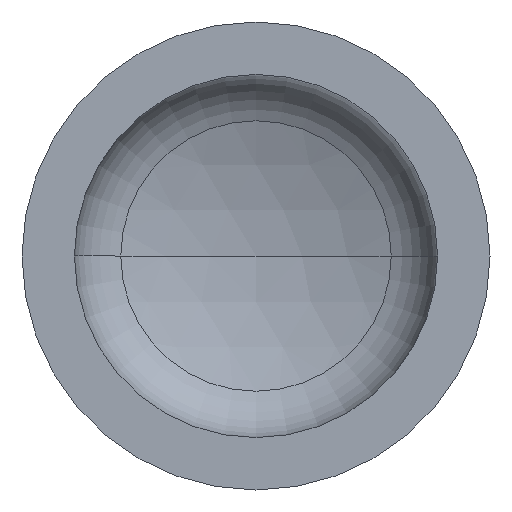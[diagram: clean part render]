
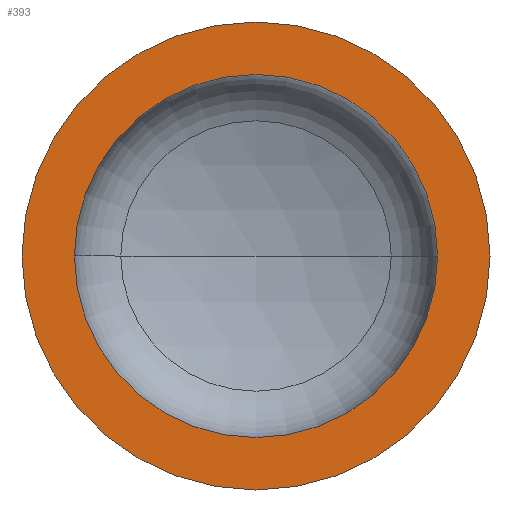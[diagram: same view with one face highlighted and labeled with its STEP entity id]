
A CAD part, front view. The second image highlights one B-rep face of the part: STEP entity #393.
In plain terms, the highlighted planar face has unit normal (0, -1, 0).
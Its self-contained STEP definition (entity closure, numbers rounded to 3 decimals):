
#1 = CARTESIAN_POINT ( 'NONE',  ( 388., 0., 0. ) ) ;
#3 = CARTESIAN_POINT ( 'NONE',  ( 0., 0., 0. ) ) ;
#9 = EDGE_LOOP ( 'NONE', ( #17, #78 ) ) ;
#17 = ORIENTED_EDGE ( 'NONE', *, *, #121, .T. ) ;
#45 = AXIS2_PLACEMENT_3D ( 'NONE', #134, #349, #193 ) ;
#47 = EDGE_LOOP ( 'NONE', ( #66, #53 ) ) ;
#53 = ORIENTED_EDGE ( 'NONE', *, *, #59, .F. ) ;
#59 = EDGE_CURVE ( 'NONE', #67, #117, #265, .T. ) ;
#66 = ORIENTED_EDGE ( 'NONE', *, *, #354, .F. ) ;
#67 = VERTEX_POINT ( 'NONE', #229 ) ;
#78 = ORIENTED_EDGE ( 'NONE', *, *, #169, .T. ) ;
#94 = VERTEX_POINT ( 'NONE', #175 ) ;
#95 = CIRCLE ( 'NONE', #103, 500. ) ;
#103 = AXIS2_PLACEMENT_3D ( 'NONE', #276, #274, #225 ) ;
#107 = VERTEX_POINT ( 'NONE', #199 ) ;
#117 = VERTEX_POINT ( 'NONE', #1 ) ;
#121 = EDGE_CURVE ( 'NONE', #94, #107, #332, .T. ) ;
#134 = CARTESIAN_POINT ( 'NONE',  ( -500., 0., 0. ) ) ;
#169 = EDGE_CURVE ( 'NONE', #107, #94, #95, .T. ) ;
#175 = CARTESIAN_POINT ( 'NONE',  ( 500., 0., 0. ) ) ;
#179 = CARTESIAN_POINT ( 'NONE',  ( 0., 0., 0. ) ) ;
#180 = DIRECTION ( 'NONE',  ( 0., -1., 0. ) ) ;
#193 = DIRECTION ( 'NONE',  ( -1., 0., 0. ) ) ;
#199 = CARTESIAN_POINT ( 'NONE',  ( -500., 0., 0. ) ) ;
#205 = FACE_OUTER_BOUND ( 'NONE', #9, .T. ) ;
#211 = DIRECTION ( 'NONE',  ( 0., -1., 0. ) ) ;
#225 = DIRECTION ( 'NONE',  ( 1., 0., 0. ) ) ;
#229 = CARTESIAN_POINT ( 'NONE',  ( -388., 0., 0. ) ) ;
#261 = CARTESIAN_POINT ( 'NONE',  ( 0., 0., 0. ) ) ;
#265 = CIRCLE ( 'NONE', #363, 388. ) ;
#266 = DIRECTION ( 'NONE',  ( 0., -1., 0. ) ) ;
#270 = DIRECTION ( 'NONE',  ( 1., 0., 0. ) ) ;
#274 = DIRECTION ( 'NONE',  ( 0., -1., 0. ) ) ;
#275 = FACE_BOUND ( 'NONE', #47, .T. ) ;
#276 = CARTESIAN_POINT ( 'NONE',  ( 0., 0., 0. ) ) ;
#294 = PLANE ( 'NONE',  #45 ) ;
#304 = DIRECTION ( 'NONE',  ( 1., 0., 0. ) ) ;
#332 = CIRCLE ( 'NONE', #388, 500. ) ;
#349 = DIRECTION ( 'NONE',  ( 0., 1., 0. ) ) ;
#354 = EDGE_CURVE ( 'NONE', #117, #67, #405, .T. ) ;
#358 = AXIS2_PLACEMENT_3D ( 'NONE', #3, #266, #270 ) ;
#363 = AXIS2_PLACEMENT_3D ( 'NONE', #179, #180, #304 ) ;
#370 = DIRECTION ( 'NONE',  ( 1., 0., 0. ) ) ;
#388 = AXIS2_PLACEMENT_3D ( 'NONE', #261, #211, #370 ) ;
#393 = ADVANCED_FACE ( 'NONE', ( #275, #205 ), #294, .F. ) ;
#405 = CIRCLE ( 'NONE', #358, 388. ) ;
